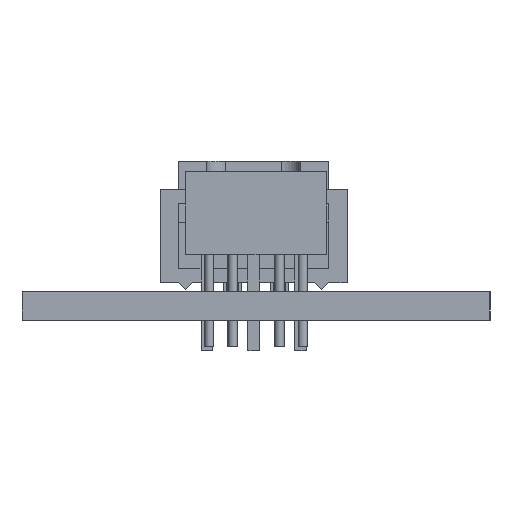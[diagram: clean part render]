
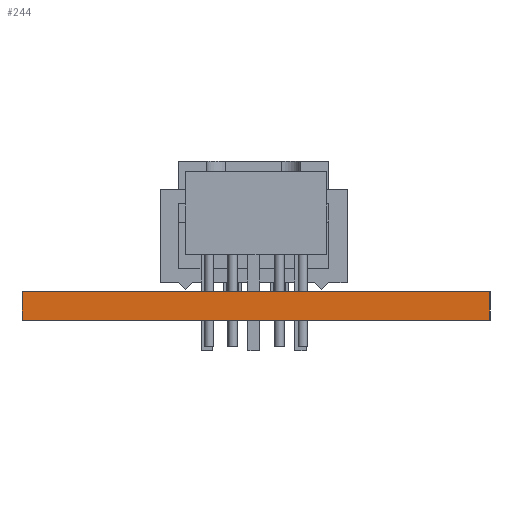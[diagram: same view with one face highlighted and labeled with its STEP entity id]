
A CAD part, left-side view. The second image highlights one B-rep face of the part: STEP entity #244.
In plain terms, the highlighted planar face has unit normal (-1, 0, 0).
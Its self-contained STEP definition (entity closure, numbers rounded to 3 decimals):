
#75 = PLANE('',#76);
#76 = AXIS2_PLACEMENT_3D('',#77,#78,#79);
#77 = CARTESIAN_POINT('',(0.,0.,0.));
#78 = DIRECTION('',(0.,1.,0.));
#79 = DIRECTION('',(1.,0.,0.));
#103 = PLANE('',#104);
#104 = AXIS2_PLACEMENT_3D('',#105,#106,#107);
#105 = CARTESIAN_POINT('',(33.02,0.,1.57));
#106 = DIRECTION('',(0.,0.,-1.));
#107 = DIRECTION('',(-1.,0.,0.));
#131 = PLANE('',#132);
#132 = AXIS2_PLACEMENT_3D('',#133,#134,#135);
#133 = CARTESIAN_POINT('',(33.02,25.4,0.));
#134 = DIRECTION('',(0.,-1.,0.));
#135 = DIRECTION('',(-1.,0.,0.));
#157 = PLANE('',#158);
#158 = AXIS2_PLACEMENT_3D('',#159,#160,#161);
#159 = CARTESIAN_POINT('',(33.02,0.,0.));
#160 = DIRECTION('',(0.,0.,-1.));
#161 = DIRECTION('',(-1.,0.,0.));
#174 = VERTEX_POINT('',#175);
#175 = CARTESIAN_POINT('',(0.,25.4,1.57));
#196 = EDGE_CURVE('',#197,#174,#199,.T.);
#197 = VERTEX_POINT('',#198);
#198 = CARTESIAN_POINT('',(0.,25.4,0.));
#199 = SURFACE_CURVE('',#200,(#204,#211),.PCURVE_S1.);
#200 = LINE('',#201,#202);
#201 = CARTESIAN_POINT('',(0.,25.4,0.));
#202 = VECTOR('',#203,1.);
#203 = DIRECTION('',(0.,0.,1.));
#204 = PCURVE('',#131,#205);
#205 = DEFINITIONAL_REPRESENTATION('',(#206),#210);
#206 = LINE('',#207,#208);
#207 = CARTESIAN_POINT('',(33.02,0.));
#208 = VECTOR('',#209,1.);
#209 = DIRECTION('',(0.,-1.));
#210 = ( GEOMETRIC_REPRESENTATION_CONTEXT(2) 
PARAMETRIC_REPRESENTATION_CONTEXT() REPRESENTATION_CONTEXT('2D SPACE',''
  ) );
#211 = PCURVE('',#212,#217);
#212 = PLANE('',#213);
#213 = AXIS2_PLACEMENT_3D('',#214,#215,#216);
#214 = CARTESIAN_POINT('',(0.,25.4,0.));
#215 = DIRECTION('',(1.,0.,0.));
#216 = DIRECTION('',(0.,-1.,0.));
#217 = DEFINITIONAL_REPRESENTATION('',(#218),#222);
#218 = LINE('',#219,#220);
#219 = CARTESIAN_POINT('',(0.,0.));
#220 = VECTOR('',#221,1.);
#221 = DIRECTION('',(0.,-1.));
#222 = ( GEOMETRIC_REPRESENTATION_CONTEXT(2) 
PARAMETRIC_REPRESENTATION_CONTEXT() REPRESENTATION_CONTEXT('2D SPACE',''
  ) );
#244 = ADVANCED_FACE('',(#245),#212,.F.);
#245 = FACE_BOUND('',#246,.F.);
#246 = EDGE_LOOP('',(#247,#248,#271,#294));
#247 = ORIENTED_EDGE('',*,*,#196,.T.);
#248 = ORIENTED_EDGE('',*,*,#249,.T.);
#249 = EDGE_CURVE('',#174,#250,#252,.T.);
#250 = VERTEX_POINT('',#251);
#251 = CARTESIAN_POINT('',(0.,0.,1.57));
#252 = SURFACE_CURVE('',#253,(#257,#264),.PCURVE_S1.);
#253 = LINE('',#254,#255);
#254 = CARTESIAN_POINT('',(0.,25.4,1.57));
#255 = VECTOR('',#256,1.);
#256 = DIRECTION('',(0.,-1.,0.));
#257 = PCURVE('',#212,#258);
#258 = DEFINITIONAL_REPRESENTATION('',(#259),#263);
#259 = LINE('',#260,#261);
#260 = CARTESIAN_POINT('',(0.,-1.57));
#261 = VECTOR('',#262,1.);
#262 = DIRECTION('',(1.,0.));
#263 = ( GEOMETRIC_REPRESENTATION_CONTEXT(2) 
PARAMETRIC_REPRESENTATION_CONTEXT() REPRESENTATION_CONTEXT('2D SPACE',''
  ) );
#264 = PCURVE('',#103,#265);
#265 = DEFINITIONAL_REPRESENTATION('',(#266),#270);
#266 = LINE('',#267,#268);
#267 = CARTESIAN_POINT('',(33.02,25.4));
#268 = VECTOR('',#269,1.);
#269 = DIRECTION('',(0.,-1.));
#270 = ( GEOMETRIC_REPRESENTATION_CONTEXT(2) 
PARAMETRIC_REPRESENTATION_CONTEXT() REPRESENTATION_CONTEXT('2D SPACE',''
  ) );
#271 = ORIENTED_EDGE('',*,*,#272,.F.);
#272 = EDGE_CURVE('',#273,#250,#275,.T.);
#273 = VERTEX_POINT('',#274);
#274 = CARTESIAN_POINT('',(0.,0.,0.));
#275 = SURFACE_CURVE('',#276,(#280,#287),.PCURVE_S1.);
#276 = LINE('',#277,#278);
#277 = CARTESIAN_POINT('',(0.,0.,0.));
#278 = VECTOR('',#279,1.);
#279 = DIRECTION('',(0.,0.,1.));
#280 = PCURVE('',#212,#281);
#281 = DEFINITIONAL_REPRESENTATION('',(#282),#286);
#282 = LINE('',#283,#284);
#283 = CARTESIAN_POINT('',(25.4,0.));
#284 = VECTOR('',#285,1.);
#285 = DIRECTION('',(0.,-1.));
#286 = ( GEOMETRIC_REPRESENTATION_CONTEXT(2) 
PARAMETRIC_REPRESENTATION_CONTEXT() REPRESENTATION_CONTEXT('2D SPACE',''
  ) );
#287 = PCURVE('',#75,#288);
#288 = DEFINITIONAL_REPRESENTATION('',(#289),#293);
#289 = LINE('',#290,#291);
#290 = CARTESIAN_POINT('',(0.,0.));
#291 = VECTOR('',#292,1.);
#292 = DIRECTION('',(0.,-1.));
#293 = ( GEOMETRIC_REPRESENTATION_CONTEXT(2) 
PARAMETRIC_REPRESENTATION_CONTEXT() REPRESENTATION_CONTEXT('2D SPACE',''
  ) );
#294 = ORIENTED_EDGE('',*,*,#295,.F.);
#295 = EDGE_CURVE('',#197,#273,#296,.T.);
#296 = SURFACE_CURVE('',#297,(#301,#308),.PCURVE_S1.);
#297 = LINE('',#298,#299);
#298 = CARTESIAN_POINT('',(0.,25.4,0.));
#299 = VECTOR('',#300,1.);
#300 = DIRECTION('',(0.,-1.,0.));
#301 = PCURVE('',#212,#302);
#302 = DEFINITIONAL_REPRESENTATION('',(#303),#307);
#303 = LINE('',#304,#305);
#304 = CARTESIAN_POINT('',(0.,0.));
#305 = VECTOR('',#306,1.);
#306 = DIRECTION('',(1.,0.));
#307 = ( GEOMETRIC_REPRESENTATION_CONTEXT(2) 
PARAMETRIC_REPRESENTATION_CONTEXT() REPRESENTATION_CONTEXT('2D SPACE',''
  ) );
#308 = PCURVE('',#157,#309);
#309 = DEFINITIONAL_REPRESENTATION('',(#310),#314);
#310 = LINE('',#311,#312);
#311 = CARTESIAN_POINT('',(33.02,25.4));
#312 = VECTOR('',#313,1.);
#313 = DIRECTION('',(0.,-1.));
#314 = ( GEOMETRIC_REPRESENTATION_CONTEXT(2) 
PARAMETRIC_REPRESENTATION_CONTEXT() REPRESENTATION_CONTEXT('2D SPACE',''
  ) );
